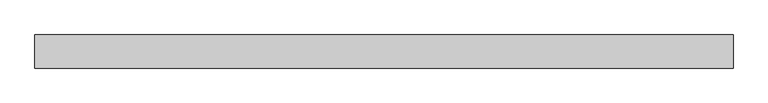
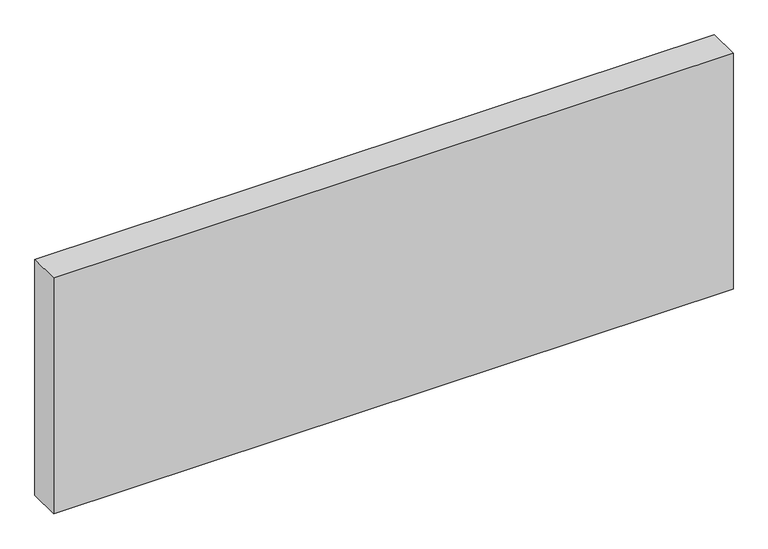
"""IFC4 building model written with IfcOpenShell, lengths in millimetres: proxy geometry."""

from ifc_helpers import new_model, si_unit, frame, origin, place, context, project, spatial, polyline, outline, extrude, source, transform, mapped, element, save


def generic_models_ad087d2f(model_context):
    return source(origin(), model_context, "Body", "SweptSolid", [
        extrude(outline(polyline([(10079.799279, -202.4), (1545.0146095, -202.4), (1545.0146095, 202.4), (10079.799279, 202.4), (10079.799279, -202.4)])), frame((0.0, 0.0, -3130.0), z_axis=(0.0, 0.0, 1.0), x_axis=(1.0, 0.0, 0.0)), (0.0, 0.0, 1.0), 3130.0),
    ])


if __name__ == "__main__":
    model = new_model("IFC4")
    model_context = context("Model", 3, world=origin())
    ifc_project = project(units=[si_unit("LENGTHUNIT", "METRE", prefix="MILLI")], contexts=[model_context])
    site = spatial("IfcSite", under=ifc_project)
    building = spatial("IfcBuilding", under=site)
    placement = place(None, origin())
    generic_models_shape = generic_models_ad087d2f(model_context)
    element("IfcBuildingElementProxy", 1, Name="Generic Models", at=placement, inside=building, context=model_context, shape_type="MappedRepresentation", body=[
        mapped(generic_models_shape, transform((0.0, 0.0, 0.0), x_axis=(1.0, 0.0, 0.0), y_axis=(0.0, 1.0, 0.0), z_axis=(0.0, 0.0, 1.0))),
    ])
    save(model, "model.ifc")
